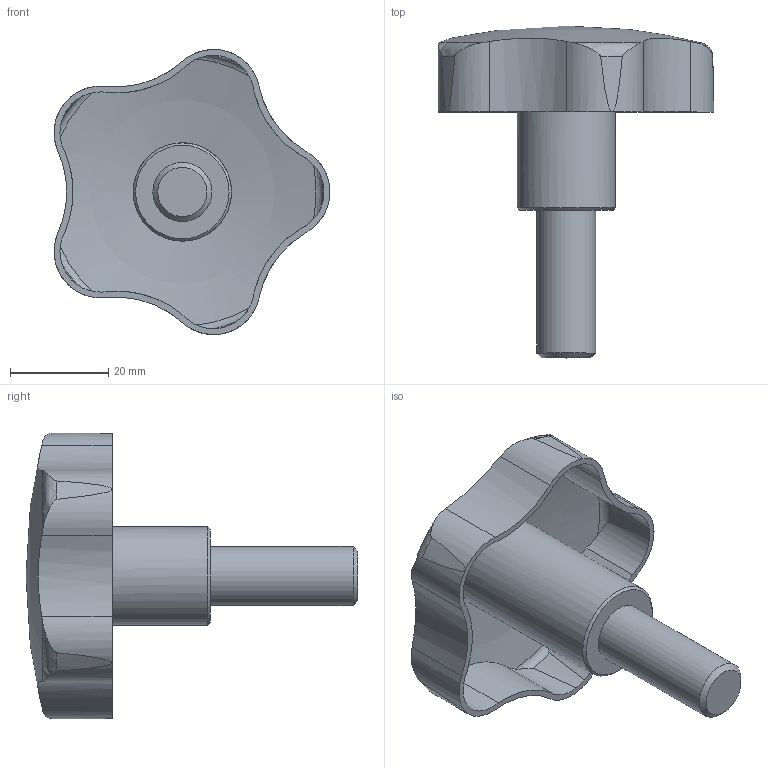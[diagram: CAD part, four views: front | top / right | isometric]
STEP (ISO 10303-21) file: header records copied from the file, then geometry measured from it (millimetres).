
FILE_DESCRIPTION( ( 'STEP AP203' ), '1' );
FILE_NAME( 'C:/Temp/Ganter_Step_05_03_2020/data/2_2/gn_5334_4/gn5334_4_2/Stainless Steel-Star knob with threaded bolt AISI 316L (A4) GN 5334.4-60-M12-30.stp', '2020-03-05T12:08:36', ( 'License CC BY-ND 4.0' ), ( 'CADENAS' ), ' ', 'PARTsolutions', ' ' );
FILE_SCHEMA( ( 'CONFIG_CONTROL_DESIGN' ) );
Length unit declared in the file: millimetre
Products named in the file (1): _Stainless Steel-Star knob with threaded bolt AISI 316L (A4) GN 5334.4-60-M12-30
Bounding box: 56.08 x 67.5 x 57.99 mm (x, y, z)
Volume: 20382.8 mm3; surface area: 12794.4 mm2
Topology: 1 solids, 1 shells, 59 faces, 160 edges, 104 vertices
Faces by surface type: cylinder 32, cone 12, torus 10, plane 3, sphere 2
Full cylindrical faces by diameter (mm): 12 x1, 20 x1
Entity records: 2446 total; most frequent: CARTESIAN_POINT 1037, ORIENTED_EDGE 302, DIRECTION 262, EDGE_CURVE 151, AXIS2_PLACEMENT_3D 121, VERTEX_POINT 102, B_SPLINE_CURVE_WITH_KNOTS 70, EDGE_LOOP 66
